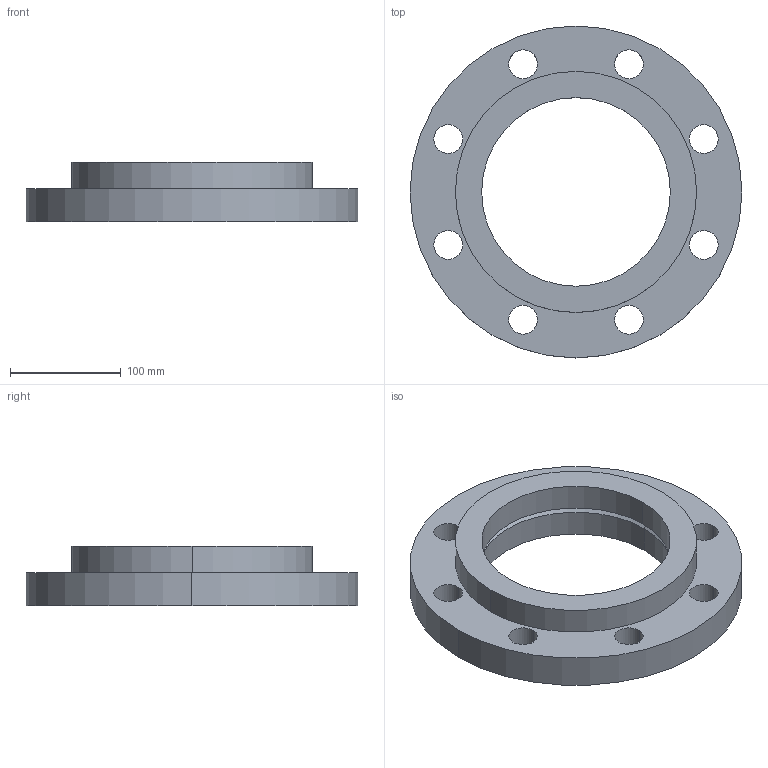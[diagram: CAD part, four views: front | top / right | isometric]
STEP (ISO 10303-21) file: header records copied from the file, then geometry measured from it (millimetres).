
FILE_DESCRIPTION (( 'STEP AP214' ), '1' );
FILE_NAME ('PN40 DN150 Type 02 in 32 - (Type A Face).STEP', '2019-01-05T00:24:41', ( '' ), ( '' ), 'SwSTEP 2.0', 'SolidWorks 2019', '' );
FILE_SCHEMA (( 'AUTOMOTIVE_DESIGN' ));
Length unit declared in the file: millimetre
Products named in the file (1): PN40 DN150 Type 02 in 32 - (Type A Face)
Bounding box: 300 x 300 x 54 mm (x, y, z)
Volume: 1617569.9 mm3; surface area: 206001.2 mm2
Topology: 2 solids, 2 shells, 30 faces, 76 edges, 50 vertices
Faces by surface type: cylinder 24, plane 4, cone 2
Entity records: 1017 total; most frequent: DIRECTION 188, CARTESIAN_POINT 157, ORIENTED_EDGE 152, AXIS2_PLACEMENT_3D 81, EDGE_CURVE 76, VERTEX_POINT 50, CIRCLE 50, EDGE_LOOP 50
